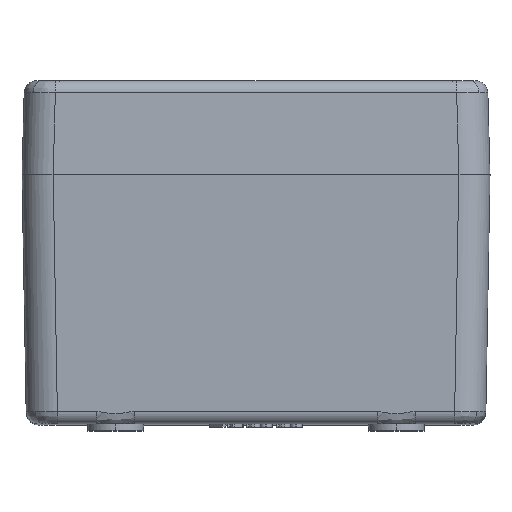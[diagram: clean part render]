
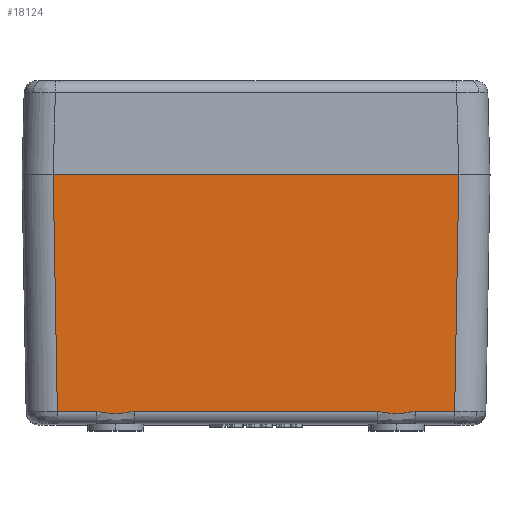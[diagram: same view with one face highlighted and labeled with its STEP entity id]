
A CAD part, top view. The second image highlights one B-rep face of the part: STEP entity #18124.
In plain terms, the highlighted planar face has unit normal (0, -0.018, 1).
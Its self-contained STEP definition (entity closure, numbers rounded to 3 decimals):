
#595 = ORIENTED_EDGE ( 'NONE', *, *, #11411, .T. ) ;
#1010 = VERTEX_POINT ( 'NONE', #17371 ) ;
#1142 = ORIENTED_EDGE ( 'NONE', *, *, #17399, .T. ) ;
#1366 = CARTESIAN_POINT ( 'NONE',  ( 23.506, -38.318, 54.331 ) ) ;
#1427 = CARTESIAN_POINT ( 'NONE',  ( -25.52, -38.035, 54.336 ) ) ;
#1462 = CARTESIAN_POINT ( 'NONE',  ( -22.997, -38.392, 54.33 ) ) ;
#1478 = B_SPLINE_CURVE_WITH_KNOTS ( 'NONE', 3,
 ( #7776, #15516, #9350, #20240, #10918, #1462, #12435, #3029, #14018, #4678, #15580, #6269, #17139, #7847 ),
 .UNSPECIFIED., .F., .F.,
 ( 4, 2, 2, 2, 2, 2, 4 ),
 ( 0., 0.002, 0.002, 0.003, 0.004, 0.005, 0.006 ),
 .UNSPECIFIED. ) ;
#1992 = LINE ( 'NONE', #13033, #2299 ) ;
#2100 = CARTESIAN_POINT ( 'NONE',  ( 19.48, -38.035, 54.336 ) ) ;
#2299 = VECTOR ( 'NONE', #17644, 1000. ) ;
#2474 = EDGE_CURVE ( 'NONE', #6357, #9577, #7643, .T. ) ;
#2595 = CARTESIAN_POINT ( 'NONE',  ( -37.5, -38.035, 54.336 ) ) ;
#2938 = CARTESIAN_POINT ( 'NONE',  ( 24.507, -38.124, 54.335 ) ) ;
#3029 = CARTESIAN_POINT ( 'NONE',  ( -22.245, -38.413, 54.33 ) ) ;
#3314 = CARTESIAN_POINT ( 'NONE',  ( -37.5, 0., 55. ) ) ;
#3837 = CARTESIAN_POINT ( 'NONE',  ( -19.48, -38.035, 54.336 ) ) ;
#3982 = LINE ( 'NONE', #2595, #5838 ) ;
#4377 = CARTESIAN_POINT ( 'NONE',  ( -37.5, -38.035, 54.336 ) ) ;
#4507 = EDGE_CURVE ( 'NONE', #9577, #1010, #15075, .T. ) ;
#4575 = CARTESIAN_POINT ( 'NONE',  ( 25.52, -38.035, 54.336 ) ) ;
#4678 = CARTESIAN_POINT ( 'NONE',  ( -21.494, -38.318, 54.331 ) ) ;
#4951 = DIRECTION ( 'NONE',  ( 0., -0.017, 1. ) ) ;
#5243 = CARTESIAN_POINT ( 'NONE',  ( -32.502, 0.087, 55.002 ) ) ;
#5831 = EDGE_CURVE ( 'NONE', #9830, #18966, #1992, .T. ) ;
#5838 = VECTOR ( 'NONE', #7387, 1000. ) ;
#5949 = ORIENTED_EDGE ( 'NONE', *, *, #5831, .F. ) ;
#6117 = CARTESIAN_POINT ( 'NONE',  ( 20.497, -38.125, 54.335 ) ) ;
#6269 = CARTESIAN_POINT ( 'NONE',  ( -20.493, -38.124, 54.335 ) ) ;
#6357 = VERTEX_POINT ( 'NONE', #3837 ) ;
#6690 = CARTESIAN_POINT ( 'NONE',  ( 31.837, -38.035, 54.336 ) ) ;
#7387 = DIRECTION ( 'NONE',  ( 1., 0., 0. ) ) ;
#7563 = EDGE_CURVE ( 'NONE', #1010, #8141, #3982, .T. ) ;
#7643 = LINE ( 'NONE', #17239, #7684 ) ;
#7682 = CARTESIAN_POINT ( 'NONE',  ( 21.501, -38.32, 54.331 ) ) ;
#7684 = VECTOR ( 'NONE', #15978, 1000. ) ;
#7691 = VERTEX_POINT ( 'NONE', #9377 ) ;
#7776 = CARTESIAN_POINT ( 'NONE',  ( -25.52, -38.035, 54.336 ) ) ;
#7847 = CARTESIAN_POINT ( 'NONE',  ( -19.48, -38.035, 54.336 ) ) ;
#8141 = VERTEX_POINT ( 'NONE', #6690 ) ;
#8277 = CARTESIAN_POINT ( 'NONE',  ( 32.501, 0., 55. ) ) ;
#9253 = CARTESIAN_POINT ( 'NONE',  ( 22.254, -38.413, 54.329 ) ) ;
#9317 = VERTEX_POINT ( 'NONE', #1427 ) ;
#9350 = CARTESIAN_POINT ( 'NONE',  ( -24.503, -38.125, 54.335 ) ) ;
#9377 = CARTESIAN_POINT ( 'NONE',  ( -31.837, -38.035, 54.336 ) ) ;
#9435 = ORIENTED_EDGE ( 'NONE', *, *, #12287, .T. ) ;
#9577 = VERTEX_POINT ( 'NONE', #2100 ) ;
#9582 = LINE ( 'NONE', #12029, #9605 ) ;
#9605 = VECTOR ( 'NONE', #19466, 1000. ) ;
#9830 = VERTEX_POINT ( 'NONE', #15310 ) ;
#10297 = ORIENTED_EDGE ( 'NONE', *, *, #2474, .T. ) ;
#10829 = CARTESIAN_POINT ( 'NONE',  ( 23.006, -38.391, 54.33 ) ) ;
#10918 = CARTESIAN_POINT ( 'NONE',  ( -23.499, -38.32, 54.331 ) ) ;
#11411 = EDGE_CURVE ( 'NONE', #9830, #7691, #20191, .T. ) ;
#12029 = CARTESIAN_POINT ( 'NONE',  ( 32.479, -1.221, 54.979 ) ) ;
#12287 = EDGE_CURVE ( 'NONE', #7691, #9317, #16652, .T. ) ;
#12334 = CARTESIAN_POINT ( 'NONE',  ( 23.757, -38.269, 54.332 ) ) ;
#12435 = CARTESIAN_POINT ( 'NONE',  ( -22.746, -38.413, 54.329 ) ) ;
#13033 = CARTESIAN_POINT ( 'NONE',  ( -37.5, 0., 55. ) ) ;
#13695 = EDGE_CURVE ( 'NONE', #8141, #18966, #9582, .T. ) ;
#13735 = DIRECTION ( 'NONE',  ( 1., 0., 0. ) ) ;
#13858 = CARTESIAN_POINT ( 'NONE',  ( 19.48, -38.035, 54.336 ) ) ;
#13926 = CARTESIAN_POINT ( 'NONE',  ( 25.008, -38.035, 54.336 ) ) ;
#14018 = CARTESIAN_POINT ( 'NONE',  ( -21.994, -38.391, 54.33 ) ) ;
#14350 = EDGE_LOOP ( 'NONE', ( #595, #9435, #1142, #10297, #18351, #14401, #19497, #5949 ) ) ;
#14401 = ORIENTED_EDGE ( 'NONE', *, *, #7563, .T. ) ;
#14940 = FACE_OUTER_BOUND ( 'NONE', #14350, .T. ) ;
#15075 = B_SPLINE_CURVE_WITH_KNOTS ( 'NONE', 3,
 ( #13858, #15425, #6117, #16977, #7682, #18555, #9253, #20135, #10829, #1366, #12334, #2938, #13926, #4575 ),
 .UNSPECIFIED., .F., .F.,
 ( 4, 2, 2, 2, 2, 2, 4 ),
 ( 0., 0.002, 0.002, 0.003, 0.004, 0.005, 0.006 ),
 .UNSPECIFIED. ) ;
#15310 = CARTESIAN_POINT ( 'NONE',  ( -32.501, 0., 55. ) ) ;
#15425 = CARTESIAN_POINT ( 'NONE',  ( 19.994, -38.035, 54.336 ) ) ;
#15516 = CARTESIAN_POINT ( 'NONE',  ( -25.006, -38.035, 54.336 ) ) ;
#15580 = CARTESIAN_POINT ( 'NONE',  ( -21.243, -38.269, 54.332 ) ) ;
#15843 = DIRECTION ( 'NONE',  ( 0., -1., -0.017 ) ) ;
#15978 = DIRECTION ( 'NONE',  ( 1., 0., 0. ) ) ;
#16297 = AXIS2_PLACEMENT_3D ( 'NONE', #3314, #4951, #15843 ) ;
#16374 = VECTOR ( 'NONE', #13735, 1000. ) ;
#16652 = LINE ( 'NONE', #4377, #16374 ) ;
#16977 = CARTESIAN_POINT ( 'NONE',  ( 21.25, -38.27, 54.332 ) ) ;
#17139 = CARTESIAN_POINT ( 'NONE',  ( -19.992, -38.035, 54.336 ) ) ;
#17197 = PLANE ( 'NONE',  #16297 ) ;
#17239 = CARTESIAN_POINT ( 'NONE',  ( -37.5, -38.035, 54.336 ) ) ;
#17371 = CARTESIAN_POINT ( 'NONE',  ( 25.52, -38.035, 54.336 ) ) ;
#17399 = EDGE_CURVE ( 'NONE', #9317, #6357, #1478, .T. ) ;
#17644 = DIRECTION ( 'NONE',  ( 1., 0., 0. ) ) ;
#17682 = DIRECTION ( 'NONE',  ( 0.017, -1., -0.017 ) ) ;
#18124 = ADVANCED_FACE ( 'NONE', ( #14940 ), #17197, .T. ) ;
#18351 = ORIENTED_EDGE ( 'NONE', *, *, #4507, .T. ) ;
#18555 = CARTESIAN_POINT ( 'NONE',  ( 22.003, -38.392, 54.33 ) ) ;
#18966 = VERTEX_POINT ( 'NONE', #8277 ) ;
#19096 = VECTOR ( 'NONE', #17682, 1000. ) ;
#19466 = DIRECTION ( 'NONE',  ( 0.017, 1., 0.017 ) ) ;
#19497 = ORIENTED_EDGE ( 'NONE', *, *, #13695, .T. ) ;
#20135 = CARTESIAN_POINT ( 'NONE',  ( 22.755, -38.413, 54.33 ) ) ;
#20191 = LINE ( 'NONE', #5243, #19096 ) ;
#20240 = CARTESIAN_POINT ( 'NONE',  ( -23.75, -38.27, 54.332 ) ) ;
